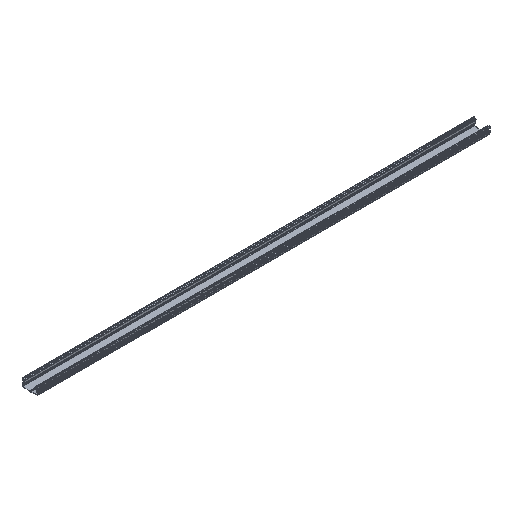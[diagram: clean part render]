
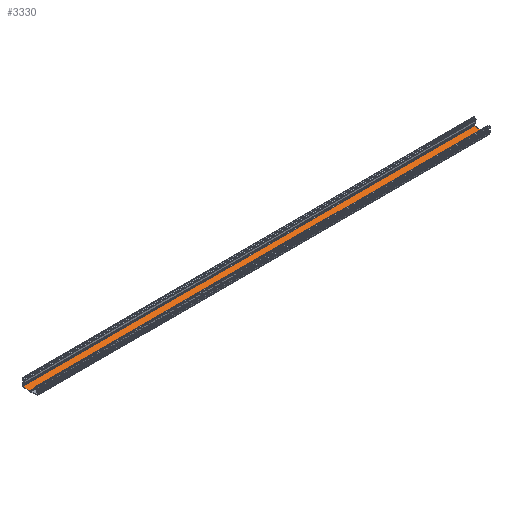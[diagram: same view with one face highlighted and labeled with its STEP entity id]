
A CAD part, isometric view. The second image highlights one B-rep face of the part: STEP entity #3330.
In plain terms, the highlighted planar face has unit normal (0, -0.087, 0.996).
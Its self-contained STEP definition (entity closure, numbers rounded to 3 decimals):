
#314 = CARTESIAN_POINT ( 'NONE',  ( 0., 49.142, -75.331 ) ) ;
#329 = DIRECTION ( 'NONE',  ( 0., 0.996, 0.087 ) ) ;
#512 = VERTEX_POINT ( 'NONE', #3309 ) ;
#597 = EDGE_CURVE ( 'NONE', #512, #1129, #1420, .T. ) ;
#641 = VERTEX_POINT ( 'NONE', #1949 ) ;
#690 = CARTESIAN_POINT ( 'NONE',  ( 3000., 4.943, -79.198 ) ) ;
#819 = CARTESIAN_POINT ( 'NONE',  ( 0., 4.943, -79.198 ) ) ;
#842 = EDGE_CURVE ( 'NONE', #641, #2177, #1243, .T. ) ;
#972 = DIRECTION ( 'NONE',  ( 0., -0.996, -0.087 ) ) ;
#1129 = VERTEX_POINT ( 'NONE', #819 ) ;
#1243 = LINE ( 'NONE', #2660, #2715 ) ;
#1330 = DIRECTION ( 'NONE',  ( -1., 0., 0. ) ) ;
#1390 = ORIENTED_EDGE ( 'NONE', *, *, #597, .T. ) ;
#1420 = LINE ( 'NONE', #314, #2456 ) ;
#1580 = CARTESIAN_POINT ( 'NONE',  ( 3000., 49.142, -75.331 ) ) ;
#1824 = EDGE_CURVE ( 'NONE', #2177, #1129, #3398, .T. ) ;
#1949 = CARTESIAN_POINT ( 'NONE',  ( 3000., 49.142, -75.331 ) ) ;
#2088 = LINE ( 'NONE', #1580, #3188 ) ;
#2177 = VERTEX_POINT ( 'NONE', #690 ) ;
#2201 = VECTOR ( 'NONE', #2888, 1000. ) ;
#2456 = VECTOR ( 'NONE', #2786, 1000. ) ;
#2660 = CARTESIAN_POINT ( 'NONE',  ( 3000., 49.142, -75.331 ) ) ;
#2715 = VECTOR ( 'NONE', #972, 1000. ) ;
#2786 = DIRECTION ( 'NONE',  ( 0., -0.996, -0.087 ) ) ;
#2834 = DIRECTION ( 'NONE',  ( 0., 0.087, -0.996 ) ) ;
#2878 = CARTESIAN_POINT ( 'NONE',  ( 3000., 4.943, -79.198 ) ) ;
#2883 = ORIENTED_EDGE ( 'NONE', *, *, #1824, .F. ) ;
#2887 = PLANE ( 'NONE',  #3204 ) ;
#2888 = DIRECTION ( 'NONE',  ( -1., 0., 0. ) ) ;
#3188 = VECTOR ( 'NONE', #1330, 1000. ) ;
#3190 = ORIENTED_EDGE ( 'NONE', *, *, #3565, .T. ) ;
#3204 = AXIS2_PLACEMENT_3D ( 'NONE', #3411, #2834, #329 ) ;
#3309 = CARTESIAN_POINT ( 'NONE',  ( 0., 49.142, -75.331 ) ) ;
#3330 = ADVANCED_FACE ( 'PLANAR_38', ( #3552 ), #2887, .F. ) ;
#3398 = LINE ( 'NONE', #2878, #2201 ) ;
#3411 = CARTESIAN_POINT ( 'NONE',  ( 3000., 49.142, -75.331 ) ) ;
#3552 = FACE_OUTER_BOUND ( 'NONE', #3627, .T. ) ;
#3565 = EDGE_CURVE ( 'NONE', #641, #512, #2088, .T. ) ;
#3627 = EDGE_LOOP ( 'NONE', ( #1390, #2883, #3630, #3190 ) ) ;
#3630 = ORIENTED_EDGE ( 'NONE', *, *, #842, .F. ) ;
